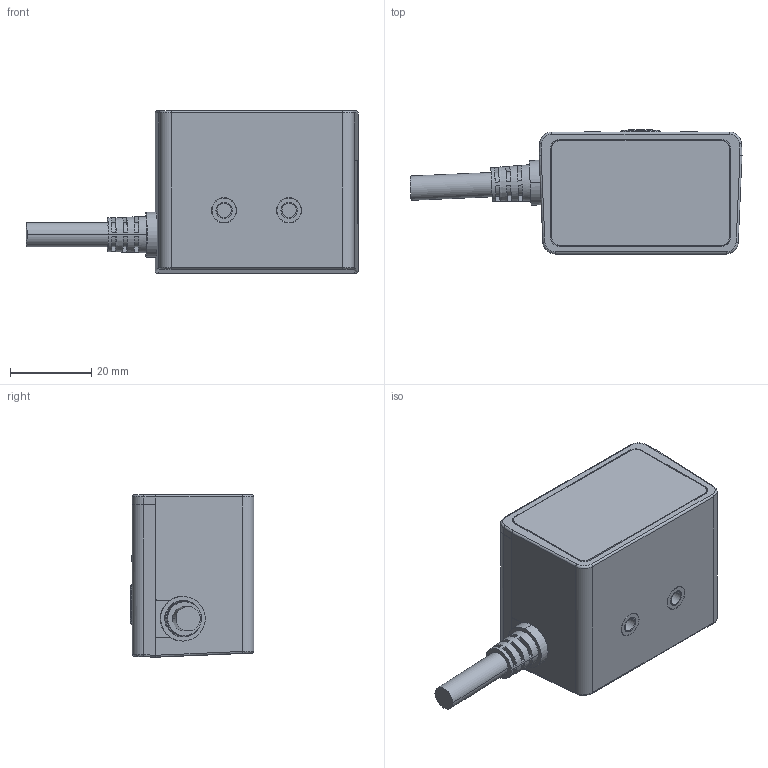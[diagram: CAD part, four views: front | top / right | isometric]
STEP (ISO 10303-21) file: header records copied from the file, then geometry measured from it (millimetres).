
FILE_DESCRIPTION((''),'2;1');
FILE_NAME('R-1000-00_ASM','2025-03-07T16:55:21',('SZ3209'),(''),'CREO PARAMETRIC BY PTC INC, 2019010','CREO PARAMETRIC BY PTC INC, 2019010','');
FILE_SCHEMA(('CONFIG_CONTROL_DESIGN'));
Length unit declared in the file: millimetre
Products named in the file (12): R-1000-M01; 000; R-1000-M01_ASM; SR-20250221; R-1000-M07-C00; R-1000-M02; R-1000-M06-C00; R-1000-M05-C00; R-6000-M11; JM-JGJ-M30; R-1000-M08-C00; R-1000-00_ASM
Assembly tree (13 placements, depth 3):
  R-1000-00_ASM
    R-1000-M01_ASM
      R-1000-M01
      000  x2
    SR-20250221
    R-1000-M07-C00
    R-1000-M02
    R-1000-M06-C00
    R-1000-M05-C00
    R-6000-M11
    JM-JGJ-M30  x2
    R-1000-M08-C00
Bounding box: 81.81 x 30.55 x 40.05 mm (x, y, z)
Volume: 22740.7 mm3; surface area: 32656.8 mm2
Topology: 12 solids, 14 shells, 1521 faces, 4117 edges, 2700 vertices
Faces by surface type: plane 1084, cylinder 254, cone 122, torus 32, bspline 24, sphere 5
Entity records: 48485 total; most frequent: CARTESIAN_POINT 11505, ORIENTED_EDGE 7810, DIRECTION 7350, EDGE_CURVE 3907, VECTOR 3072, LINE 3072, VERTEX_POINT 2565, AXIS2_PLACEMENT_3D 2139
